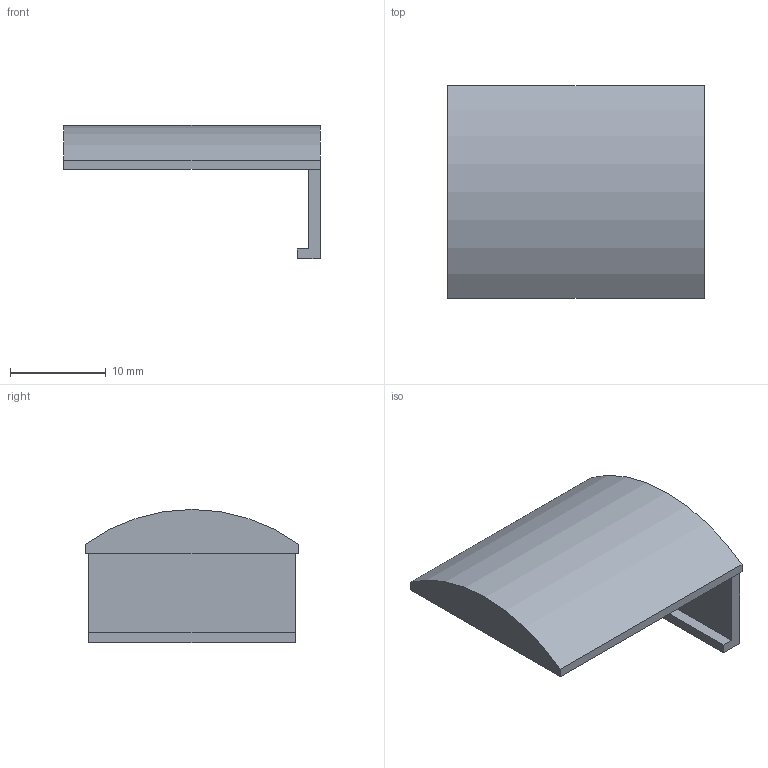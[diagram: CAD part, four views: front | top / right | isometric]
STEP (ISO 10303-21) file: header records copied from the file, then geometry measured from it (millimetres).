
FILE_DESCRIPTION(('Open CASCADE Model'),'2;1');
FILE_NAME('Open CASCADE Shape Model','2026-10-04T21:26:26',('Author'),( 'Open CASCADE'),'Open CASCADE STEP processor 7.9','Open CASCADE 7.9' ,'Unknown');
FILE_SCHEMA(('AUTOMOTIVE_DESIGN { 1 0 10303 214 1 1 1 1 }'));
Length unit declared in the file: millimetre
Products named in the file (1): Open CASCADE STEP translator 7.9 15
Bounding box: 26.8 x 22.23 x 13.9 mm (x, y, z)
Volume: 2315.6 mm3; surface area: 1916 mm2
Topology: 1 solids, 1 shells, 12 faces, 30 edges, 20 vertices
Faces by surface type: plane 11, cylinder 1
Entity records: 746 total; most frequent: CARTESIAN_POINT 133, DIRECTION 108, LINE 76, VECTOR 76, ORIENTED_EDGE 60, PCURVE 60, DEFINITIONAL_REPRESENTATION 60, EDGE_CURVE 30
